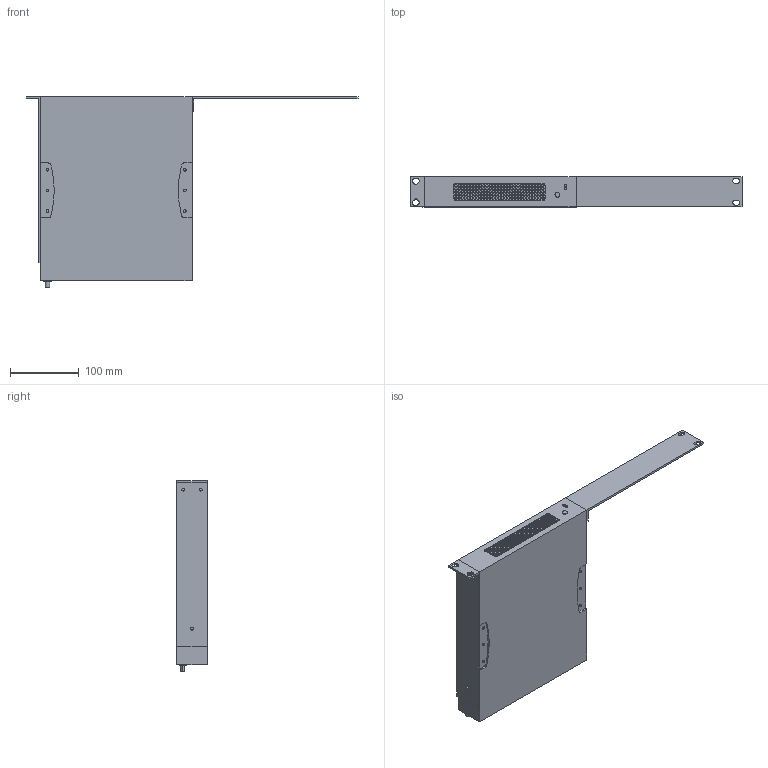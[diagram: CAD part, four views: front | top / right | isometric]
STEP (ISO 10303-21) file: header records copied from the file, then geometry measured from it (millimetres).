
FILE_DESCRIPTION (( 'STEP AP214' ), '1' );
FILE_NAME ('FG-901638-3D-A (SINGLE MOUNT LEFT).STEP', '2025-12-18T23:48:58', ( '' ), ( '' ), 'SwSTEP 2.0', 'SolidWorks 2023', '' );
FILE_SCHEMA (( 'AUTOMOTIVE_DESIGN' ));
Length unit declared in the file: millimetre
Products named in the file (1): FG-901638-3D-A (SINGLE MOUNT LEFT)
Bounding box: 481.9 x 43.6 x 277.84 mm (x, y, z)
Volume: 2606128.6 mm3; surface area: 212327.7 mm2
Topology: 3 solids, 3 shells, 1031 faces, 2364 edges, 1576 vertices
Faces by surface type: plane 669, cylinder 362
Entity records: 29231 total; most frequent: DIRECTION 5152, CARTESIAN_POINT 4972, ORIENTED_EDGE 4728, EDGE_CURVE 2364, AXIS2_PLACEMENT_3D 1756, LINE 1640, VECTOR 1640, VERTEX_POINT 1576
